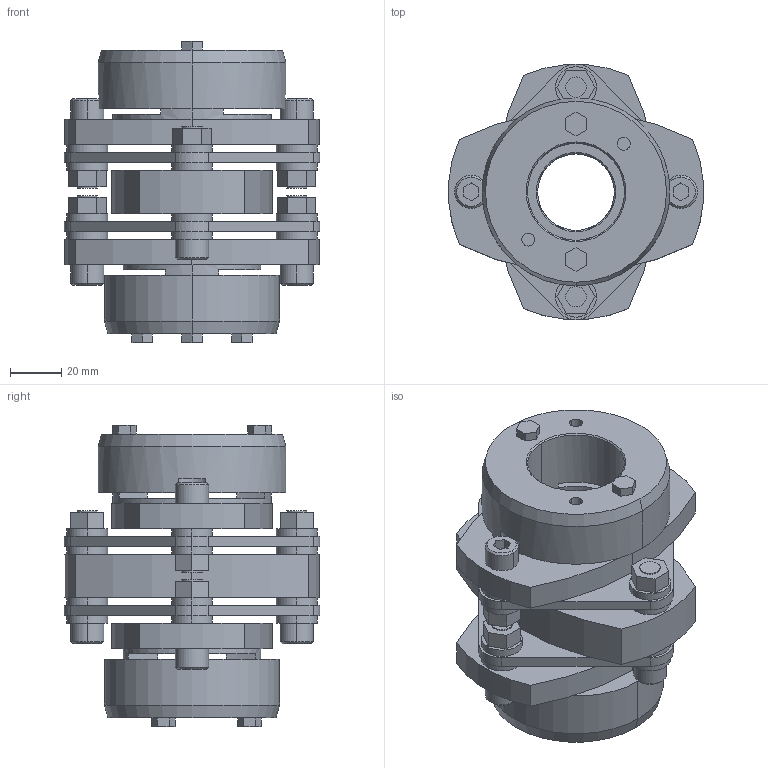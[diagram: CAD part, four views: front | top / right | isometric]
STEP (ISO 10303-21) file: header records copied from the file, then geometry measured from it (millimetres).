
FILE_DESCRIPTION((''),'2;1');
FILE_NAME('LCD-100T7-30×38.stp','2011-09-09T08:56:39',(''),(''),'AutoCAD STEP 2000i','AutoCAD 2000i',', , ');
FILE_SCHEMA(('CONFIG_CONTROL_DESIGN'));
Length unit declared in the file: millimetre
Products named in the file (10): LCD-100T7-30×38; 忣兜1; LC100T7-T038; LC100T7-T035; LC100T7-T030-1; LC100T7-T030; LC100T7-T025; LC100T7-T022-1; LC100T7-T022; LCD100-ITA
Assembly tree (9 placements, depth 2):
  LCD-100T7-30×38
    忣兜1
    LC100T7-T038
    LC100T7-T035
    LC100T7-T030-1
    LC100T7-T030
    LC100T7-T025
    LC100T7-T022-1
    LC100T7-T022
    LCD100-ITA
Bounding box: 100 x 99.93 x 118 mm (x, y, z)
Volume: 360213.3 mm3; surface area: 91749.7 mm2
Topology: 1 solids, 1 shells, 317 faces, 774 edges, 508 vertices
Faces by surface type: plane 171, cylinder 122, cone 24
Entity records: 9637 total; most frequent: DIRECTION 1716, CARTESIAN_POINT 1609, ORIENTED_EDGE 1548, EDGE_CURVE 774, AXIS2_PLACEMENT_3D 615, VERTEX_POINT 508, VECTOR 486, LINE 486
